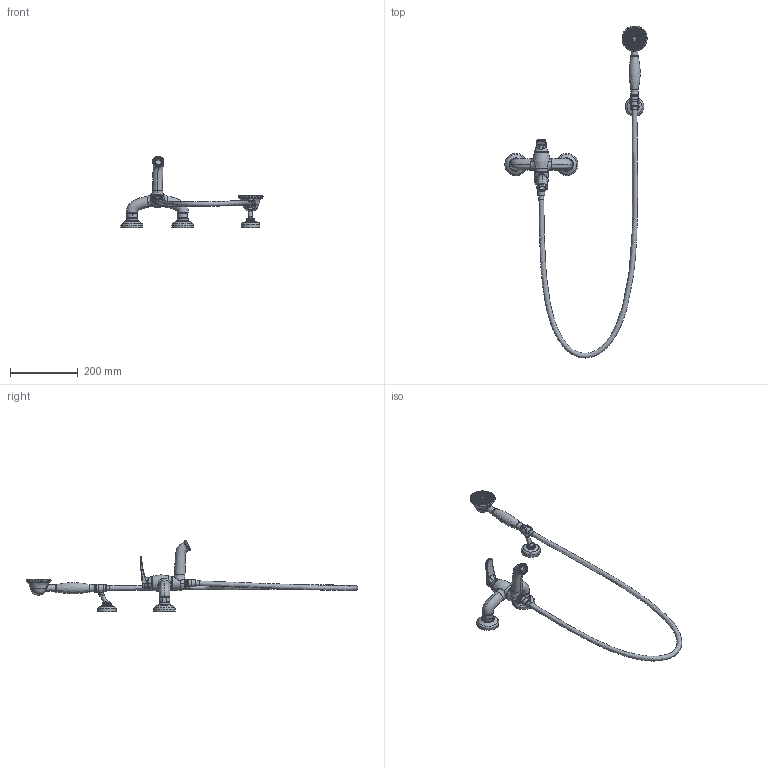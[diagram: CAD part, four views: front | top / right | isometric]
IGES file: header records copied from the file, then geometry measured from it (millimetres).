
Global section: file name: 81ce9b54-68b6-410d-82c5-985d26291f15; native system: unknown; preprocessor: unknown; author: unknown; organization: unknown; date: 20191217.080942; units: millimetre
Bounding box: 419.48 x 979.5 x 210.32 mm (x, y, z)
Volume: 963345.7 mm3; surface area: 206573.8 mm2
Topology: 22 solids, 22 shells, 742 faces, 1928 edges, 1398 vertices
Faces by surface type: bspline 742
